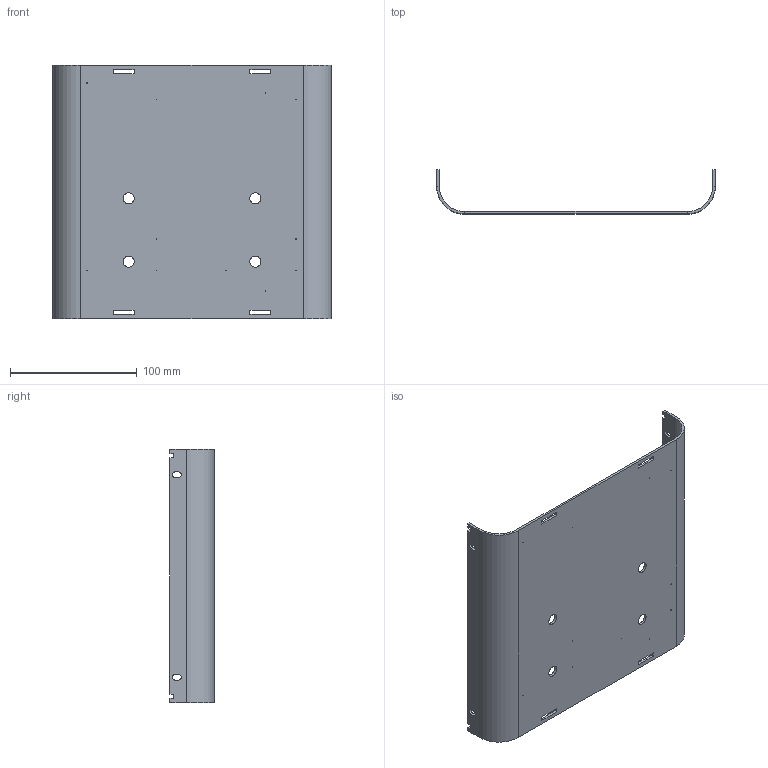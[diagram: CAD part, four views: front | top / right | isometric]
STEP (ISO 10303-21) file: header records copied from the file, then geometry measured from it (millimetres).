
FILE_DESCRIPTION (( 'STEP AP203' ), '1' );
FILE_NAME ('ORW-71.24.10.001 Äíî.STEP', '2025-01-13T09:25:31', ( 'Àíäðåé' ), ( '' ), 'SwSTEP 2.0', 'SolidWorks 2023', '' );
FILE_SCHEMA (( 'CONFIG_CONTROL_DESIGN' ));
Length unit declared in the file: millimetre
Products named in the file (1): ORW-71.24.10.001 Дно
Bounding box: 220 x 35 x 200 mm (x, y, z)
Volume: 105995.7 mm3; surface area: 108636.6 mm2
Topology: 1 solids, 1 shells, 85 faces, 248 edges, 165 vertices
Faces by surface type: plane 58, cylinder 27
Full cylindrical faces by diameter (mm): 0.5 x11, 8.75 x4
Entity records: 2767 total; most frequent: CARTESIAN_POINT 454, DIRECTION 444, ORIENTED_EDGE 436, EDGE_CURVE 218, LINE 164, VECTOR 164, VERTEX_POINT 150, EDGE_LOOP 146
